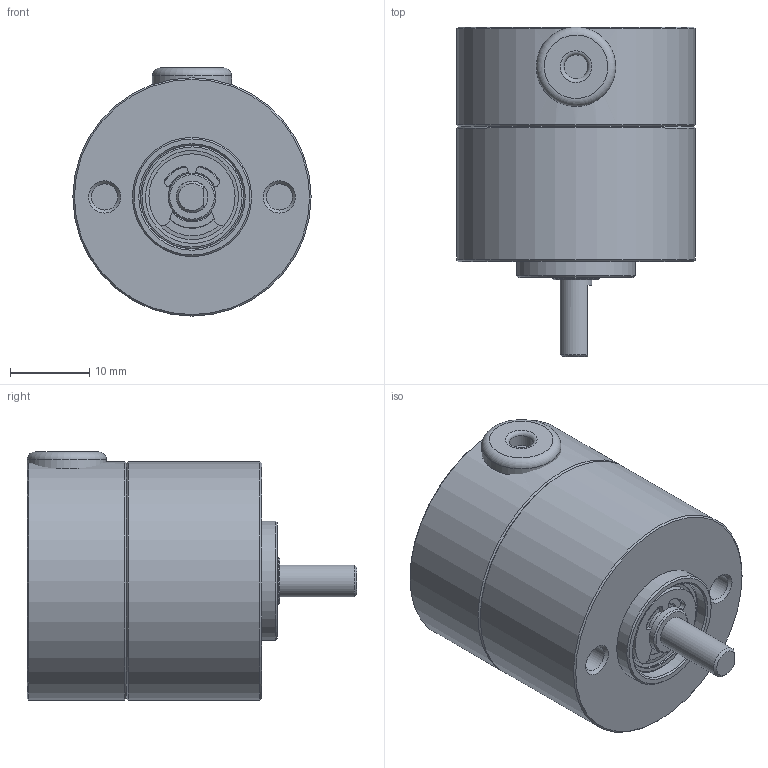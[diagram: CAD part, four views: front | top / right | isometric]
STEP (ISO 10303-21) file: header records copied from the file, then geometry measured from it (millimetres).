
FILE_DESCRIPTION (( 'STEP AP214' ), '1' );
FILE_NAME ('27-27xxR.STEP', '2020-12-22T10:02:37', ( '' ), ( '' ), 'SwSTEP 2.0', 'SolidWorks 2019', '' );
FILE_SCHEMA (( 'AUTOMOTIVE_DESIGN' ));
Length unit declared in the file: millimetre
Products named in the file (1): 27-27xxR
Bounding box: 30 x 41.5 x 31.25 mm (x, y, z)
Surface area: 5434.6 mm2 (no closed solid volume)
Topology: 0 solids, 9 shells, 63 faces, 152 edges, 103 vertices
Faces by surface type: cylinder 23, plane 22, cone 12, torus 6
Full cylindrical faces by diameter (mm): 3 x1, 3.3 x2, 4 x1, 5 x1, 6 x2, 7.9 x1, 10 x1, 11.7 x1, 13 x1, 15 x1, 30 x2
Entity records: 2418 total; most frequent: CARTESIAN_POINT 339, DIRECTION 317, ORIENTED_EDGE 187, AXIS2_PLACEMENT_3D 140, EDGE_CURVE 116, EDGE_LOOP 107, VERTEX_POINT 98, FACE_OUTER_BOUND 83
